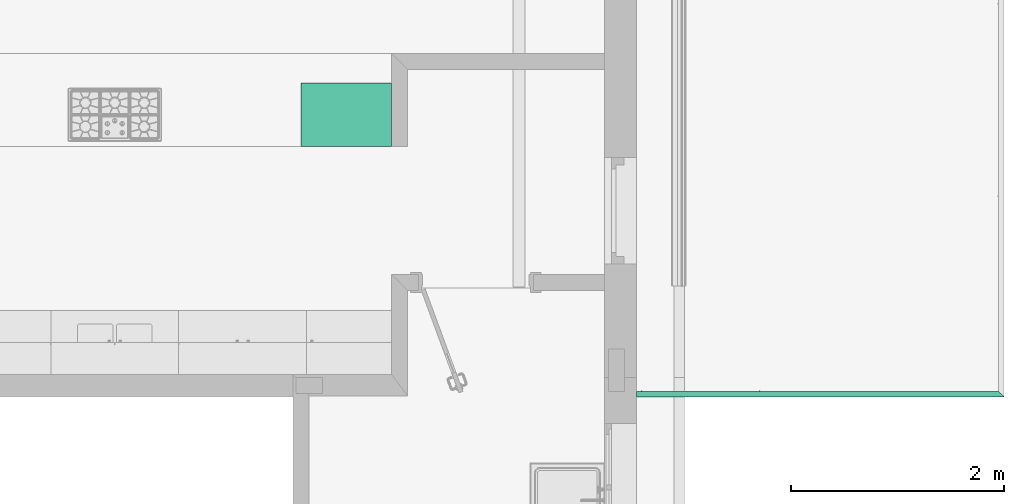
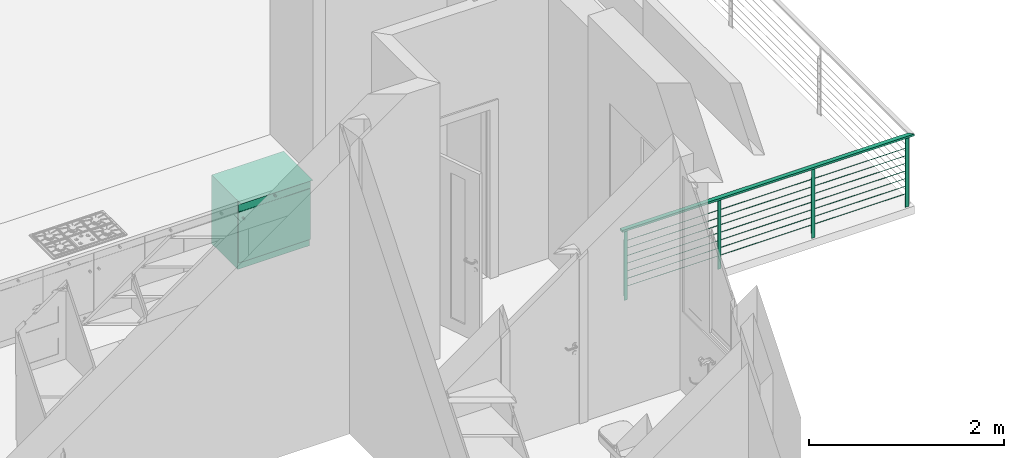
# One storey, part 24 of 26: 2 distribution elements.
"""IFC2X3 building model written with IfcOpenShell, lengths in millimetres."""

from ifc_helpers import new_model, entity, si_unit, converted_unit, money_unit, direction, frame, origin_with_axes, place, context, subcontext, project, spatial, faceted_brep, material, type_object, element, save


model = new_model("IFC2X3")

# Units and contexts
model_context = context("Model", 3, precision=1e-05, world=origin_with_axes(), true_north=direction((0.0, 1.0)))
body_context = subcontext(model_context, "Body", "Model", "MODEL_VIEW")
ifc_project = project(units=[si_unit("LENGTHUNIT", "METRE", prefix="MILLI"), si_unit("AREAUNIT", "SQUARE_METRE"), si_unit("VOLUMEUNIT", "CUBIC_METRE"), converted_unit("PLANEANGLEUNIT", "DEGREE", entity("IfcPlaneAngleMeasure", 0.0174532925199), si_unit("PLANEANGLEUNIT", "RADIAN"), dimensions=[0, 0, 0, 0, 0, 0, 0]), si_unit("SOLIDANGLEUNIT", "STERADIAN"), money_unit("USD"), converted_unit("TIMEUNIT", "Year", entity("IfcTimeMeasure", 31556926.0), si_unit("TIMEUNIT", "SECOND"), dimensions=[0, 0, 0, 0, 0, 0, 0]), si_unit("MASSUNIT", "GRAM"), si_unit("THERMODYNAMICTEMPERATUREUNIT", "DEGREE_CELSIUS"), si_unit("LUMINOUSINTENSITYUNIT", "LUMEN")], contexts=[model_context])

# Site, building, storey
site_placement = place(None, origin_with_axes())
site = spatial("IfcSite", under=ifc_project, at=site_placement, Name="Grove Residential", CompositionType="ELEMENT")
building_placement = place(site_placement, origin_with_axes())
building = spatial("IfcBuilding", under=site, at=building_placement, Name="Building", CompositionType="ELEMENT")
storey_placement = place(building_placement, origin_with_axes())
storey = spatial("IfcBuildingStorey", under=building, at=storey_placement, Name="Ground Floor", CompositionType="ELEMENT", Elevation=0.0)

# Distribution elements
ifc_material = material(Name="Background")
distribution_element_type_1 = type_object("IfcDistributionElementType", Name="Cabinet Base Single Door 21")
distribution_element_1_placement = place(storey_placement, frame((8000.0, 9200.0, 0.0), z_axis=(0.0, 0.0, 1.0), x_axis=(1.0, 0.0, 0.0)))
element("IfcDistributionElement", 1, at=distribution_element_1_placement, inside=storey, type_object=distribution_element_type_1, material=ifc_material, Name="FU - 001", context=body_context, shape_type="Brep", body=[
    faceted_brep([(-20.0, 70.0, 719.0), (-20.0, 70.0, 739.0), (-830.0, 70.0, 739.0), (-830.0, 70.0, 719.0), (-20.0, 580.0, 719.0), (-20.0, 580.0, 739.0), (-830.0, 580.0, 739.0), (-830.0, 580.0, 719.0)], [[[0, 1, 2, 3]], [[4, 5, 1, 0]], [[1, 5, 6, 2]], [[3, 2, 6, 7]], [[0, 3, 7, 4]], [[7, 6, 5, 4]]]),
    faceted_brep([(0.0, 70.0, 0.0), (0.0, 70.0, 90.0), (-850.0, 70.0, 90.0), (-850.0, 70.0, 0.0), (0.0, 600.0, 0.0), (0.0, 600.0, 90.0), (-850.0, 600.0, 90.0), (-850.0, 600.0, 0.0)], [[[0, 1, 2, 3]], [[4, 5, 1, 0]], [[1, 5, 6, 2]], [[3, 2, 6, 7]], [[0, 3, 7, 4]], [[7, 6, 5, 4]]]),
    faceted_brep([(0.0, 70.0, 839.0), (0.0, 70.0, 859.0), (-20.0, 70.0, 859.0), (-20.0, 70.0, 839.0), (0.0, 600.0, 839.0), (0.0, 600.0, 859.0), (-20.0, 600.0, 859.0), (-830.0, 600.0, 859.0), (-850.0, 600.0, 859.0), (-850.0, 70.0, 859.0), (-830.0, 70.0, 859.0), (-830.0, 70.0, 839.0), (-850.0, 70.0, 839.0), (-850.0, 600.0, 839.0), (-830.0, 600.0, 839.0), (-20.0, 600.0, 839.0)], [[[0, 1, 2, 3]], [[4, 5, 1, 0]], [[1, 5, 6, 7, 8, 9, 10, 2]], [[3, 2, 10, 11]], [[0, 3, 11, 12, 13, 14, 15, 4]], [[15, 6, 5, 4]], [[14, 7, 6, 15]], [[13, 8, 7, 14]], [[12, 9, 8, 13]], [[11, 10, 9, 12]]]),
    faceted_brep([(0.0, 70.0, 90.0), (0.0, 70.0, 110.0), (-20.0, 70.0, 110.0), (-20.0, 70.0, 90.0), (0.0, 600.0, 90.0), (0.0, 600.0, 110.0), (-20.0, 600.0, 110.0), (-830.0, 600.0, 110.0), (-850.0, 600.0, 110.0), (-850.0, 70.0, 110.0), (-830.0, 70.0, 110.0), (-830.0, 70.0, 90.0), (-850.0, 70.0, 90.0), (-850.0, 600.0, 90.0), (-830.0, 600.0, 90.0), (-20.0, 600.0, 90.0)], [[[0, 1, 2, 3]], [[4, 5, 1, 0]], [[1, 5, 6, 7, 8, 9, 10, 2]], [[3, 2, 10, 11]], [[0, 3, 11, 12, 13, 14, 15, 4]], [[15, 6, 5, 4]], [[14, 7, 6, 15]], [[13, 8, 7, 14]], [[12, 9, 8, 13]], [[11, 10, 9, 12]]]),
    faceted_brep([(0.0, 70.0, 110.0), (0.0, 70.0, 839.0), (-20.0, 70.0, 839.0), (-20.0, 70.0, 110.0), (0.0, 600.0, 110.0), (0.0, 600.0, 839.0), (-850.0, 600.0, 839.0), (-850.0, 70.0, 839.0), (-830.0, 70.0, 839.0), (-830.0, 580.0, 839.0), (-20.0, 580.0, 839.0), (-20.0, 580.0, 110.0), (-830.0, 580.0, 110.0), (-830.0, 70.0, 110.0), (-850.0, 70.0, 110.0), (-850.0, 600.0, 110.0)], [[[0, 1, 2, 3]], [[4, 5, 1, 0]], [[1, 5, 6, 7, 8, 9, 10, 2]], [[3, 2, 10, 11]], [[0, 3, 11, 12, 13, 14, 15, 4]], [[15, 6, 5, 4]], [[14, 7, 6, 15]], [[13, 8, 7, 14]], [[12, 9, 8, 13]], [[11, 10, 9, 12]]]),
    faceted_brep([(-830.0, 70.0, 389.5), (-830.0, 70.0, 409.5), (-830.0, 580.0, 409.5), (-830.0, 580.0, 389.5), (-20.0, 70.0, 389.5), (-20.0, 70.0, 409.5), (-20.0, 580.0, 409.5), (-20.0, 580.0, 389.5)], [[[0, 1, 2, 3]], [[4, 5, 1, 0]], [[1, 5, 6, 2]], [[3, 2, 6, 7]], [[0, 3, 7, 4]], [[7, 6, 5, 4]]]),
    faceted_brep([(0.0, 0.0, 859.0), (0.0, 0.0, 860.0), (-850.0, 0.0, 860.0), (-850.0, 0.0, 859.0), (0.0, 600.0, 859.0), (0.0, 600.0, 860.0), (-850.0, 600.0, 860.0), (-850.0, 600.0, 859.0)], [[[0, 1, 2, 3]], [[4, 5, 1, 0]], [[1, 5, 6, 2]], [[3, 2, 6, 7]], [[0, 3, 7, 4]], [[7, 6, 5, 4]]]),
    faceted_brep([(-1.5, 70.0, 730.5), (-1.5, 50.0, 730.5), (-848.5, 50.0, 730.5), (-848.5, 70.0, 730.5), (-1.5, 70.0, 857.5), (-1.5, 50.0, 857.5), (-848.5, 50.0, 857.5), (-848.5, 70.0, 857.5)], [[[0, 1, 2, 3]], [[4, 5, 1, 0]], [[1, 5, 6, 2]], [[3, 2, 6, 7]], [[0, 3, 7, 4]], [[7, 6, 5, 4]]]),
    faceted_brep([(-420.407798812, 50.0, 782.91344561), (-425.0, 50.0, 782.0), (-429.592201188, 50.0, 782.91344561), (-433.485281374, 50.0, 785.514718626), (-436.08655439, 50.0, 789.407798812), (-437.0, 50.0, 794.0), (-436.08655439, 50.0, 798.592201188), (-433.485281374, 50.0, 802.485281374), (-429.592201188, 50.0, 805.08655439), (-425.0, 50.0, 806.0), (-420.407798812, 50.0, 805.08655439), (-416.514718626, 50.0, 802.485281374), (-413.91344561, 50.0, 798.592201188), (-413.0, 50.0, 794.0), (-413.91344561, 50.0, 789.407798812), (-416.514718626, 50.0, 785.514718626), (-420.407798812, 25.0, 782.91344561), (-425.0, 25.0, 782.0), (-429.592201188, 25.0, 782.91344561), (-433.485281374, 25.0, 785.514718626), (-436.08655439, 25.0, 789.407798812), (-437.0, 25.0, 794.0), (-436.08655439, 25.0, 798.592201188), (-433.485281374, 25.0, 802.485281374), (-429.592201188, 25.0, 805.08655439), (-425.0, 25.0, 806.0), (-420.407798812, 25.0, 805.08655439), (-416.514718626, 25.0, 802.485281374), (-413.91344561, 25.0, 798.592201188), (-413.0, 25.0, 794.0), (-413.91344561, 25.0, 789.407798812), (-416.514718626, 25.0, 785.514718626)], [[[0, 1, 2, 3, 4, 5, 6, 7, 8, 9, 10, 11, 12, 13, 14, 15]], [[0, 16, 17, 1]], [[1, 17, 18, 2]], [[2, 18, 19, 3]], [[3, 19, 20, 4]], [[4, 20, 21, 5]], [[5, 21, 22, 6]], [[6, 22, 23, 7]], [[7, 23, 24, 8]], [[8, 24, 25, 9]], [[9, 25, 26, 10]], [[10, 26, 27, 11]], [[11, 27, 28, 12]], [[12, 28, 29, 13]], [[13, 29, 30, 14]], [[14, 30, 31, 15]], [[15, 31, 16, 0]], [[16, 31, 30, 29, 28, 27, 26, 25, 24, 23, 22, 21, 20, 19, 18, 17]]]),
    faceted_brep([(-1.5, 70.0, 91.5), (-1.5, 50.0, 91.5), (-848.5, 50.0, 91.5), (-848.5, 70.0, 91.5), (-1.5, 70.0, 727.5), (-1.5, 50.0, 727.5), (-848.5, 50.0, 727.5), (-848.5, 70.0, 727.5)], [[[0, 1, 2, 3]], [[4, 5, 1, 0]], [[1, 5, 6, 2]], [[3, 2, 6, 7]], [[0, 3, 7, 4]], [[7, 6, 5, 4]]]),
    faceted_brep([(-809.58655439, 50.0, 636.907798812), (-810.5, 50.0, 641.5), (-809.58655439, 50.0, 646.092201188), (-806.985281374, 50.0, 649.985281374), (-803.092201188, 50.0, 652.58655439), (-798.5, 50.0, 653.5), (-793.907798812, 50.0, 652.58655439), (-790.014718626, 50.0, 649.985281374), (-787.41344561, 50.0, 646.092201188), (-786.5, 50.0, 641.5), (-787.41344561, 50.0, 636.907798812), (-790.014718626, 50.0, 633.014718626), (-793.907798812, 50.0, 630.41344561), (-798.5, 50.0, 629.5), (-803.092201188, 50.0, 630.41344561), (-806.985281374, 50.0, 633.014718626), (-809.58655439, 25.0, 636.907798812), (-810.5, 25.0, 641.5), (-809.58655439, 25.0, 646.092201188), (-806.985281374, 25.0, 649.985281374), (-803.092201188, 25.0, 652.58655439), (-798.5, 25.0, 653.5), (-793.907798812, 25.0, 652.58655439), (-790.014718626, 25.0, 649.985281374), (-787.41344561, 25.0, 646.092201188), (-786.5, 25.0, 641.5), (-787.41344561, 25.0, 636.907798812), (-790.014718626, 25.0, 633.014718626), (-793.907798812, 25.0, 630.41344561), (-798.5, 25.0, 629.5), (-803.092201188, 25.0, 630.41344561), (-806.985281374, 25.0, 633.014718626)], [[[0, 1, 2, 3, 4, 5, 6, 7, 8, 9, 10, 11, 12, 13, 14, 15]], [[0, 16, 17, 1]], [[1, 17, 18, 2]], [[2, 18, 19, 3]], [[3, 19, 20, 4]], [[4, 20, 21, 5]], [[5, 21, 22, 6]], [[6, 22, 23, 7]], [[7, 23, 24, 8]], [[8, 24, 25, 9]], [[9, 25, 26, 10]], [[10, 26, 27, 11]], [[11, 27, 28, 12]], [[12, 28, 29, 13]], [[13, 29, 30, 14]], [[14, 30, 31, 15]], [[15, 31, 16, 0]], [[16, 31, 30, 29, 28, 27, 26, 25, 24, 23, 22, 21, 20, 19, 18, 17]]]),
])
distribution_element_type_2 = type_object("IfcDistributionElementType", Name="Rail Wired 02 20")
distribution_element_2_placement = place(storey_placement, frame((13725.0, 6875.0, -50.0), z_axis=(0.0, 0.0, 1.0), x_axis=(-1.0, 0.0, 0.0)))
element("IfcDistributionElement", 2, at=distribution_element_2_placement, inside=storey, type_object=distribution_element_type_2, material=ifc_material, Name="FU - 001", context=body_context, shape_type="Brep", body=[
    faceted_brep([(-25.0, 25.0, 875.0), (-25.0, 25.0, 875.0), (-25.0, 25.0, 900.0), (-25.0, 25.0, 900.0), (3425.0, 25.0, 875.0), (3425.0, -25.0, 875.0), (25.0, -25.0, 875.0), (25.0, -25.0, 900.0), (3425.0, -25.0, 900.0), (3425.0, 25.0, 900.0)], [[[0, 1, 2, 3]], [[0, 4, 5, 6, 1]], [[1, 6, 7, 2]], [[3, 2, 7, 8, 9]], [[4, 0, 3, 9]], [[5, 4, 9, 8]], [[6, 5, 8, 7]]]),
    faceted_brep([(30.0, -2.0, 0.0), (70.0, -2.0, 0.0), (70.0, -2.0, 871.0), (30.0, -2.0, 871.0), (30.0, 2.0, 0.0), (70.0, 2.0, 0.0), (70.0, 2.0, 871.0), (30.0, 2.0, 871.0)], [[[0, 1, 2, 3]], [[0, 4, 5, 1]], [[1, 5, 6, 2]], [[3, 2, 6, 7]], [[4, 0, 3, 7]], [[5, 4, 7, 6]]]),
    faceted_brep([(52.0, -38.0, 36.0), (52.0, -38.0, 731.0), (48.0, -38.0, 731.0), (48.0, -38.0, 36.0), (52.0, -2.0, 0.0), (52.0, -2.0, 767.0), (48.0, -2.0, 767.0), (48.0, -2.0, 0.0)], [[[0, 1, 2, 3]], [[0, 4, 5, 1]], [[1, 5, 6, 2]], [[3, 2, 6, 7]], [[4, 0, 3, 7]], [[5, 4, 7, 6]]]),
    faceted_brep([(1138.33333333, -2.0, 0.0), (1178.33333333, -2.0, 0.0), (1178.33333333, -2.0, 871.0), (1138.33333333, -2.0, 871.0), (1138.33333333, 2.0, 0.0), (1178.33333333, 2.0, 0.0), (1178.33333333, 2.0, 871.0), (1138.33333333, 2.0, 871.0)], [[[0, 1, 2, 3]], [[0, 4, 5, 1]], [[1, 5, 6, 2]], [[3, 2, 6, 7]], [[4, 0, 3, 7]], [[5, 4, 7, 6]]]),
    faceted_brep([(1160.33333333, -38.0, 36.0), (1160.33333333, -38.0, 731.0), (1156.33333333, -38.0, 731.0), (1156.33333333, -38.0, 36.0), (1160.33333333, -2.0, 0.0), (1160.33333333, -2.0, 767.0), (1156.33333333, -2.0, 767.0), (1156.33333333, -2.0, 0.0)], [[[0, 1, 2, 3]], [[0, 4, 5, 1]], [[1, 5, 6, 2]], [[3, 2, 6, 7]], [[4, 0, 3, 7]], [[5, 4, 7, 6]]]),
    faceted_brep([(2246.66666667, -2.0, 0.0), (2286.66666667, -2.0, 0.0), (2286.66666667, -2.0, 871.0), (2246.66666667, -2.0, 871.0), (2246.66666667, 2.0, 0.0), (2286.66666667, 2.0, 0.0), (2286.66666667, 2.0, 871.0), (2246.66666667, 2.0, 871.0)], [[[0, 1, 2, 3]], [[0, 4, 5, 1]], [[1, 5, 6, 2]], [[3, 2, 6, 7]], [[4, 0, 3, 7]], [[5, 4, 7, 6]]]),
    faceted_brep([(2268.66666667, -38.0, 36.0), (2268.66666667, -38.0, 731.0), (2264.66666667, -38.0, 731.0), (2264.66666667, -38.0, 36.0), (2268.66666667, -2.0, 0.0), (2268.66666667, -2.0, 767.0), (2264.66666667, -2.0, 767.0), (2264.66666667, -2.0, 0.0)], [[[0, 1, 2, 3]], [[0, 4, 5, 1]], [[1, 5, 6, 2]], [[3, 2, 6, 7]], [[4, 0, 3, 7]], [[5, 4, 7, 6]]]),
    faceted_brep([(3355.0, -2.0, 0.0), (3395.0, -2.0, 0.0), (3395.0, -2.0, 871.0), (3355.0, -2.0, 871.0), (3355.0, 2.0, 0.0), (3395.0, 2.0, 0.0), (3395.0, 2.0, 871.0), (3355.0, 2.0, 871.0)], [[[0, 1, 2, 3]], [[0, 4, 5, 1]], [[1, 5, 6, 2]], [[3, 2, 6, 7]], [[4, 0, 3, 7]], [[5, 4, 7, 6]]]),
    faceted_brep([(3377.0, -38.0, 36.0), (3377.0, -38.0, 731.0), (3373.0, -38.0, 731.0), (3373.0, -38.0, 36.0), (3377.0, -2.0, 0.0), (3377.0, -2.0, 767.0), (3373.0, -2.0, 767.0), (3373.0, -2.0, 0.0)], [[[0, 1, 2, 3]], [[0, 4, 5, 1]], [[1, 5, 6, 2]], [[3, 2, 6, 7]], [[4, 0, 3, 7]], [[5, 4, 7, 6]]]),
    faceted_brep([(20.0, -15.0, 871.0), (80.0, -15.0, 871.0), (80.0, -15.0, 875.0), (20.0, -15.0, 875.0), (20.0, 15.0, 871.0), (80.0, 15.0, 871.0), (80.0, 15.0, 875.0), (20.0, 15.0, 875.0)], [[[0, 1, 2, 3]], [[0, 4, 5, 1]], [[1, 5, 6, 2]], [[3, 2, 6, 7]], [[4, 0, 3, 7]], [[5, 4, 7, 6]]]),
    faceted_brep([(1128.33333333, -15.0, 871.0), (1188.33333333, -15.0, 871.0), (1188.33333333, -15.0, 875.0), (1128.33333333, -15.0, 875.0), (1128.33333333, 15.0, 871.0), (1188.33333333, 15.0, 871.0), (1188.33333333, 15.0, 875.0), (1128.33333333, 15.0, 875.0)], [[[0, 1, 2, 3]], [[0, 4, 5, 1]], [[1, 5, 6, 2]], [[3, 2, 6, 7]], [[4, 0, 3, 7]], [[5, 4, 7, 6]]]),
    faceted_brep([(2236.66666667, -15.0, 871.0), (2296.66666667, -15.0, 871.0), (2296.66666667, -15.0, 875.0), (2236.66666667, -15.0, 875.0), (2236.66666667, 15.0, 871.0), (2296.66666667, 15.0, 871.0), (2296.66666667, 15.0, 875.0), (2236.66666667, 15.0, 875.0)], [[[0, 1, 2, 3]], [[0, 4, 5, 1]], [[1, 5, 6, 2]], [[3, 2, 6, 7]], [[4, 0, 3, 7]], [[5, 4, 7, 6]]]),
    faceted_brep([(3345.0, -15.0, 871.0), (3405.0, -15.0, 871.0), (3405.0, -15.0, 875.0), (3345.0, -15.0, 875.0), (3345.0, 15.0, 871.0), (3405.0, 15.0, 871.0), (3405.0, 15.0, 875.0), (3345.0, 15.0, 875.0)], [[[0, 1, 2, 3]], [[0, 4, 5, 1]], [[1, 5, 6, 2]], [[3, 2, 6, 7]], [[4, 0, 3, 7]], [[5, 4, 7, 6]]]),
    faceted_brep([(3355.0, -22.0, 155.0), (3355.0, -18.0, 155.0), (3375.0, -18.0, 155.0), (3375.0, -17.5, 155.0), (50.0, -17.5, 155.0), (50.0, -18.0, 155.0), (70.0, -18.0, 155.0), (70.0, -22.0, 155.0), (52.0, -22.0, 155.0), (52.0, -22.5, 155.0), (1156.33333333, -22.5, 155.0), (1156.33333333, -22.0, 155.0), (1138.33333333, -22.0, 155.0), (1138.33333333, -18.0, 155.0), (1178.33333333, -18.0, 155.0), (1178.33333333, -22.0, 155.0), (1160.33333333, -22.0, 155.0), (1160.33333333, -22.5, 155.0), (2264.66666667, -22.5, 155.0), (2264.66666667, -22.0, 155.0), (2246.66666667, -22.0, 155.0), (2246.66666667, -18.0, 155.0), (2286.66666667, -18.0, 155.0), (2286.66666667, -22.0, 155.0), (2268.66666667, -22.0, 155.0), (2268.66666667, -22.5, 155.0), (3373.0, -22.5, 155.0), (3373.0, -22.0, 155.0), (3355.0, -22.0, 150.0), (3355.0, -18.0, 150.0), (3375.0, -18.0, 150.0), (3375.0, -17.5, 150.0), (50.0, -17.5, 150.0), (50.0, -18.0, 150.0), (70.0, -18.0, 150.0), (70.0, -22.0, 150.0), (52.0, -22.0, 150.0), (52.0, -22.5, 150.0), (1156.33333333, -22.5, 150.0), (1156.33333333, -22.0, 150.0), (1138.33333333, -22.0, 150.0), (1138.33333333, -18.0, 150.0), (1178.33333333, -18.0, 150.0), (1178.33333333, -22.0, 150.0), (1160.33333333, -22.0, 150.0), (1160.33333333, -22.5, 150.0), (2264.66666667, -22.5, 150.0), (2264.66666667, -22.0, 150.0), (2246.66666667, -22.0, 150.0), (2246.66666667, -18.0, 150.0), (2286.66666667, -18.0, 150.0), (2286.66666667, -22.0, 150.0), (2268.66666667, -22.0, 150.0), (2268.66666667, -22.5, 150.0), (3373.0, -22.5, 150.0), (3373.0, -22.0, 150.0)], [[[0, 1, 2, 3, 4, 5, 6, 7, 8, 9, 10, 11, 12, 13, 14, 15, 16, 17, 18, 19, 20, 21, 22, 23, 24, 25, 26, 27]], [[1, 0, 28, 29]], [[30, 2, 1, 29]], [[2, 30, 31, 3]], [[3, 31, 32, 4]], [[33, 5, 4, 32]], [[6, 5, 33, 34]], [[7, 6, 34, 35]], [[36, 8, 7, 35]], [[9, 8, 36, 37]], [[38, 10, 9, 37]], [[39, 11, 10, 38]], [[11, 39, 40, 12]], [[13, 12, 40, 41]], [[14, 13, 41, 42]], [[15, 14, 42, 43]], [[44, 16, 15, 43]], [[17, 16, 44, 45]], [[46, 18, 17, 45]], [[47, 19, 18, 46]], [[19, 47, 48, 20]], [[21, 20, 48, 49]], [[22, 21, 49, 50]], [[23, 22, 50, 51]], [[52, 24, 23, 51]], [[25, 24, 52, 53]], [[25, 53, 54, 26]], [[55, 27, 26, 54]], [[0, 27, 55, 28]], [[28, 55, 54, 53, 52, 51, 50, 49, 48, 47, 46, 45, 44, 43, 42, 41, 40, 39, 38, 37, 36, 35, 34, 33, 32, 31, 30, 29]]]),
    faceted_brep([(3355.0, -22.0, 250.0), (3355.0, -18.0, 250.0), (3375.0, -18.0, 250.0), (3375.0, -17.5, 250.0), (50.0, -17.5, 250.0), (50.0, -18.0, 250.0), (70.0, -18.0, 250.0), (70.0, -22.0, 250.0), (52.0, -22.0, 250.0), (52.0, -22.5, 250.0), (1156.33333333, -22.5, 250.0), (1156.33333333, -22.0, 250.0), (1138.33333333, -22.0, 250.0), (1138.33333333, -18.0, 250.0), (1178.33333333, -18.0, 250.0), (1178.33333333, -22.0, 250.0), (1160.33333333, -22.0, 250.0), (1160.33333333, -22.5, 250.0), (2264.66666667, -22.5, 250.0), (2264.66666667, -22.0, 250.0), (2246.66666667, -22.0, 250.0), (2246.66666667, -18.0, 250.0), (2286.66666667, -18.0, 250.0), (2286.66666667, -22.0, 250.0), (2268.66666667, -22.0, 250.0), (2268.66666667, -22.5, 250.0), (3373.0, -22.5, 250.0), (3373.0, -22.0, 250.0), (3355.0, -22.0, 245.0), (3355.0, -18.0, 245.0), (3375.0, -18.0, 245.0), (3375.0, -17.5, 245.0), (50.0, -17.5, 245.0), (50.0, -18.0, 245.0), (70.0, -18.0, 245.0), (70.0, -22.0, 245.0), (52.0, -22.0, 245.0), (52.0, -22.5, 245.0), (1156.33333333, -22.5, 245.0), (1156.33333333, -22.0, 245.0), (1138.33333333, -22.0, 245.0), (1138.33333333, -18.0, 245.0), (1178.33333333, -18.0, 245.0), (1178.33333333, -22.0, 245.0), (1160.33333333, -22.0, 245.0), (1160.33333333, -22.5, 245.0), (2264.66666667, -22.5, 245.0), (2264.66666667, -22.0, 245.0), (2246.66666667, -22.0, 245.0), (2246.66666667, -18.0, 245.0), (2286.66666667, -18.0, 245.0), (2286.66666667, -22.0, 245.0), (2268.66666667, -22.0, 245.0), (2268.66666667, -22.5, 245.0), (3373.0, -22.5, 245.0), (3373.0, -22.0, 245.0)], [[[0, 1, 2, 3, 4, 5, 6, 7, 8, 9, 10, 11, 12, 13, 14, 15, 16, 17, 18, 19, 20, 21, 22, 23, 24, 25, 26, 27]], [[1, 0, 28, 29]], [[30, 2, 1, 29]], [[2, 30, 31, 3]], [[3, 31, 32, 4]], [[33, 5, 4, 32]], [[6, 5, 33, 34]], [[7, 6, 34, 35]], [[36, 8, 7, 35]], [[9, 8, 36, 37]], [[38, 10, 9, 37]], [[39, 11, 10, 38]], [[11, 39, 40, 12]], [[13, 12, 40, 41]], [[14, 13, 41, 42]], [[15, 14, 42, 43]], [[44, 16, 15, 43]], [[17, 16, 44, 45]], [[46, 18, 17, 45]], [[47, 19, 18, 46]], [[19, 47, 48, 20]], [[21, 20, 48, 49]], [[22, 21, 49, 50]], [[23, 22, 50, 51]], [[52, 24, 23, 51]], [[25, 24, 52, 53]], [[25, 53, 54, 26]], [[55, 27, 26, 54]], [[0, 27, 55, 28]], [[28, 55, 54, 53, 52, 51, 50, 49, 48, 47, 46, 45, 44, 43, 42, 41, 40, 39, 38, 37, 36, 35, 34, 33, 32, 31, 30, 29]]]),
    faceted_brep([(3355.0, -22.0, 345.0), (3355.0, -18.0, 345.0), (3375.0, -18.0, 345.0), (3375.0, -17.5, 345.0), (50.0, -17.5, 345.0), (50.0, -18.0, 345.0), (70.0, -18.0, 345.0), (70.0, -22.0, 345.0), (52.0, -22.0, 345.0), (52.0, -22.5, 345.0), (1156.33333333, -22.5, 345.0), (1156.33333333, -22.0, 345.0), (1138.33333333, -22.0, 345.0), (1138.33333333, -18.0, 345.0), (1178.33333333, -18.0, 345.0), (1178.33333333, -22.0, 345.0), (1160.33333333, -22.0, 345.0), (1160.33333333, -22.5, 345.0), (2264.66666667, -22.5, 345.0), (2264.66666667, -22.0, 345.0), (2246.66666667, -22.0, 345.0), (2246.66666667, -18.0, 345.0), (2286.66666667, -18.0, 345.0), (2286.66666667, -22.0, 345.0), (2268.66666667, -22.0, 345.0), (2268.66666667, -22.5, 345.0), (3373.0, -22.5, 345.0), (3373.0, -22.0, 345.0), (3355.0, -22.0, 340.0), (3355.0, -18.0, 340.0), (3375.0, -18.0, 340.0), (3375.0, -17.5, 340.0), (50.0, -17.5, 340.0), (50.0, -18.0, 340.0), (70.0, -18.0, 340.0), (70.0, -22.0, 340.0), (52.0, -22.0, 340.0), (52.0, -22.5, 340.0), (1156.33333333, -22.5, 340.0), (1156.33333333, -22.0, 340.0), (1138.33333333, -22.0, 340.0), (1138.33333333, -18.0, 340.0), (1178.33333333, -18.0, 340.0), (1178.33333333, -22.0, 340.0), (1160.33333333, -22.0, 340.0), (1160.33333333, -22.5, 340.0), (2264.66666667, -22.5, 340.0), (2264.66666667, -22.0, 340.0), (2246.66666667, -22.0, 340.0), (2246.66666667, -18.0, 340.0), (2286.66666667, -18.0, 340.0), (2286.66666667, -22.0, 340.0), (2268.66666667, -22.0, 340.0), (2268.66666667, -22.5, 340.0), (3373.0, -22.5, 340.0), (3373.0, -22.0, 340.0)], [[[0, 1, 2, 3, 4, 5, 6, 7, 8, 9, 10, 11, 12, 13, 14, 15, 16, 17, 18, 19, 20, 21, 22, 23, 24, 25, 26, 27]], [[1, 0, 28, 29]], [[30, 2, 1, 29]], [[2, 30, 31, 3]], [[3, 31, 32, 4]], [[33, 5, 4, 32]], [[6, 5, 33, 34]], [[7, 6, 34, 35]], [[36, 8, 7, 35]], [[9, 8, 36, 37]], [[38, 10, 9, 37]], [[39, 11, 10, 38]], [[11, 39, 40, 12]], [[13, 12, 40, 41]], [[14, 13, 41, 42]], [[15, 14, 42, 43]], [[44, 16, 15, 43]], [[17, 16, 44, 45]], [[46, 18, 17, 45]], [[47, 19, 18, 46]], [[19, 47, 48, 20]], [[21, 20, 48, 49]], [[22, 21, 49, 50]], [[23, 22, 50, 51]], [[52, 24, 23, 51]], [[25, 24, 52, 53]], [[25, 53, 54, 26]], [[55, 27, 26, 54]], [[0, 27, 55, 28]], [[28, 55, 54, 53, 52, 51, 50, 49, 48, 47, 46, 45, 44, 43, 42, 41, 40, 39, 38, 37, 36, 35, 34, 33, 32, 31, 30, 29]]]),
    faceted_brep([(3355.0, -22.0, 440.0), (3355.0, -18.0, 440.0), (3375.0, -18.0, 440.0), (3375.0, -17.5, 440.0), (50.0, -17.5, 440.0), (50.0, -18.0, 440.0), (70.0, -18.0, 440.0), (70.0, -22.0, 440.0), (52.0, -22.0, 440.0), (52.0, -22.5, 440.0), (1156.33333333, -22.5, 440.0), (1156.33333333, -22.0, 440.0), (1138.33333333, -22.0, 440.0), (1138.33333333, -18.0, 440.0), (1178.33333333, -18.0, 440.0), (1178.33333333, -22.0, 440.0), (1160.33333333, -22.0, 440.0), (1160.33333333, -22.5, 440.0), (2264.66666667, -22.5, 440.0), (2264.66666667, -22.0, 440.0), (2246.66666667, -22.0, 440.0), (2246.66666667, -18.0, 440.0), (2286.66666667, -18.0, 440.0), (2286.66666667, -22.0, 440.0), (2268.66666667, -22.0, 440.0), (2268.66666667, -22.5, 440.0), (3373.0, -22.5, 440.0), (3373.0, -22.0, 440.0), (3355.0, -22.0, 435.0), (3355.0, -18.0, 435.0), (3375.0, -18.0, 435.0), (3375.0, -17.5, 435.0), (50.0, -17.5, 435.0), (50.0, -18.0, 435.0), (70.0, -18.0, 435.0), (70.0, -22.0, 435.0), (52.0, -22.0, 435.0), (52.0, -22.5, 435.0), (1156.33333333, -22.5, 435.0), (1156.33333333, -22.0, 435.0), (1138.33333333, -22.0, 435.0), (1138.33333333, -18.0, 435.0), (1178.33333333, -18.0, 435.0), (1178.33333333, -22.0, 435.0), (1160.33333333, -22.0, 435.0), (1160.33333333, -22.5, 435.0), (2264.66666667, -22.5, 435.0), (2264.66666667, -22.0, 435.0), (2246.66666667, -22.0, 435.0), (2246.66666667, -18.0, 435.0), (2286.66666667, -18.0, 435.0), (2286.66666667, -22.0, 435.0), (2268.66666667, -22.0, 435.0), (2268.66666667, -22.5, 435.0), (3373.0, -22.5, 435.0), (3373.0, -22.0, 435.0)], [[[0, 1, 2, 3, 4, 5, 6, 7, 8, 9, 10, 11, 12, 13, 14, 15, 16, 17, 18, 19, 20, 21, 22, 23, 24, 25, 26, 27]], [[1, 0, 28, 29]], [[30, 2, 1, 29]], [[2, 30, 31, 3]], [[3, 31, 32, 4]], [[33, 5, 4, 32]], [[6, 5, 33, 34]], [[7, 6, 34, 35]], [[36, 8, 7, 35]], [[9, 8, 36, 37]], [[38, 10, 9, 37]], [[39, 11, 10, 38]], [[11, 39, 40, 12]], [[13, 12, 40, 41]], [[14, 13, 41, 42]], [[15, 14, 42, 43]], [[44, 16, 15, 43]], [[17, 16, 44, 45]], [[46, 18, 17, 45]], [[47, 19, 18, 46]], [[19, 47, 48, 20]], [[21, 20, 48, 49]], [[22, 21, 49, 50]], [[23, 22, 50, 51]], [[52, 24, 23, 51]], [[25, 24, 52, 53]], [[25, 53, 54, 26]], [[55, 27, 26, 54]], [[0, 27, 55, 28]], [[28, 55, 54, 53, 52, 51, 50, 49, 48, 47, 46, 45, 44, 43, 42, 41, 40, 39, 38, 37, 36, 35, 34, 33, 32, 31, 30, 29]]]),
    faceted_brep([(3355.0, -22.0, 535.0), (3355.0, -18.0, 535.0), (3375.0, -18.0, 535.0), (3375.0, -17.5, 535.0), (50.0, -17.5, 535.0), (50.0, -18.0, 535.0), (70.0, -18.0, 535.0), (70.0, -22.0, 535.0), (52.0, -22.0, 535.0), (52.0, -22.5, 535.0), (1156.33333333, -22.5, 535.0), (1156.33333333, -22.0, 535.0), (1138.33333333, -22.0, 535.0), (1138.33333333, -18.0, 535.0), (1178.33333333, -18.0, 535.0), (1178.33333333, -22.0, 535.0), (1160.33333333, -22.0, 535.0), (1160.33333333, -22.5, 535.0), (2264.66666667, -22.5, 535.0), (2264.66666667, -22.0, 535.0), (2246.66666667, -22.0, 535.0), (2246.66666667, -18.0, 535.0), (2286.66666667, -18.0, 535.0), (2286.66666667, -22.0, 535.0), (2268.66666667, -22.0, 535.0), (2268.66666667, -22.5, 535.0), (3373.0, -22.5, 535.0), (3373.0, -22.0, 535.0), (3355.0, -22.0, 530.0), (3355.0, -18.0, 530.0), (3375.0, -18.0, 530.0), (3375.0, -17.5, 530.0), (50.0, -17.5, 530.0), (50.0, -18.0, 530.0), (70.0, -18.0, 530.0), (70.0, -22.0, 530.0), (52.0, -22.0, 530.0), (52.0, -22.5, 530.0), (1156.33333333, -22.5, 530.0), (1156.33333333, -22.0, 530.0), (1138.33333333, -22.0, 530.0), (1138.33333333, -18.0, 530.0), (1178.33333333, -18.0, 530.0), (1178.33333333, -22.0, 530.0), (1160.33333333, -22.0, 530.0), (1160.33333333, -22.5, 530.0), (2264.66666667, -22.5, 530.0), (2264.66666667, -22.0, 530.0), (2246.66666667, -22.0, 530.0), (2246.66666667, -18.0, 530.0), (2286.66666667, -18.0, 530.0), (2286.66666667, -22.0, 530.0), (2268.66666667, -22.0, 530.0), (2268.66666667, -22.5, 530.0), (3373.0, -22.5, 530.0), (3373.0, -22.0, 530.0)], [[[0, 1, 2, 3, 4, 5, 6, 7, 8, 9, 10, 11, 12, 13, 14, 15, 16, 17, 18, 19, 20, 21, 22, 23, 24, 25, 26, 27]], [[1, 0, 28, 29]], [[30, 2, 1, 29]], [[2, 30, 31, 3]], [[3, 31, 32, 4]], [[33, 5, 4, 32]], [[6, 5, 33, 34]], [[7, 6, 34, 35]], [[36, 8, 7, 35]], [[9, 8, 36, 37]], [[38, 10, 9, 37]], [[39, 11, 10, 38]], [[11, 39, 40, 12]], [[13, 12, 40, 41]], [[14, 13, 41, 42]], [[15, 14, 42, 43]], [[44, 16, 15, 43]], [[17, 16, 44, 45]], [[46, 18, 17, 45]], [[47, 19, 18, 46]], [[19, 47, 48, 20]], [[21, 20, 48, 49]], [[22, 21, 49, 50]], [[23, 22, 50, 51]], [[52, 24, 23, 51]], [[25, 24, 52, 53]], [[25, 53, 54, 26]], [[55, 27, 26, 54]], [[0, 27, 55, 28]], [[28, 55, 54, 53, 52, 51, 50, 49, 48, 47, 46, 45, 44, 43, 42, 41, 40, 39, 38, 37, 36, 35, 34, 33, 32, 31, 30, 29]]]),
    faceted_brep([(3355.0, -22.0, 630.0), (3355.0, -18.0, 630.0), (3375.0, -18.0, 630.0), (3375.0, -17.5, 630.0), (50.0, -17.5, 630.0), (50.0, -18.0, 630.0), (70.0, -18.0, 630.0), (70.0, -22.0, 630.0), (52.0, -22.0, 630.0), (52.0, -22.5, 630.0), (1156.33333333, -22.5, 630.0), (1156.33333333, -22.0, 630.0), (1138.33333333, -22.0, 630.0), (1138.33333333, -18.0, 630.0), (1178.33333333, -18.0, 630.0), (1178.33333333, -22.0, 630.0), (1160.33333333, -22.0, 630.0), (1160.33333333, -22.5, 630.0), (2264.66666667, -22.5, 630.0), (2264.66666667, -22.0, 630.0), (2246.66666667, -22.0, 630.0), (2246.66666667, -18.0, 630.0), (2286.66666667, -18.0, 630.0), (2286.66666667, -22.0, 630.0), (2268.66666667, -22.0, 630.0), (2268.66666667, -22.5, 630.0), (3373.0, -22.5, 630.0), (3373.0, -22.0, 630.0), (3355.0, -22.0, 625.0), (3355.0, -18.0, 625.0), (3375.0, -18.0, 625.0), (3375.0, -17.5, 625.0), (50.0, -17.5, 625.0), (50.0, -18.0, 625.0), (70.0, -18.0, 625.0), (70.0, -22.0, 625.0), (52.0, -22.0, 625.0), (52.0, -22.5, 625.0), (1156.33333333, -22.5, 625.0), (1156.33333333, -22.0, 625.0), (1138.33333333, -22.0, 625.0), (1138.33333333, -18.0, 625.0), (1178.33333333, -18.0, 625.0), (1178.33333333, -22.0, 625.0), (1160.33333333, -22.0, 625.0), (1160.33333333, -22.5, 625.0), (2264.66666667, -22.5, 625.0), (2264.66666667, -22.0, 625.0), (2246.66666667, -22.0, 625.0), (2246.66666667, -18.0, 625.0), (2286.66666667, -18.0, 625.0), (2286.66666667, -22.0, 625.0), (2268.66666667, -22.0, 625.0), (2268.66666667, -22.5, 625.0), (3373.0, -22.5, 625.0), (3373.0, -22.0, 625.0)], [[[0, 1, 2, 3, 4, 5, 6, 7, 8, 9, 10, 11, 12, 13, 14, 15, 16, 17, 18, 19, 20, 21, 22, 23, 24, 25, 26, 27]], [[1, 0, 28, 29]], [[30, 2, 1, 29]], [[2, 30, 31, 3]], [[3, 31, 32, 4]], [[33, 5, 4, 32]], [[6, 5, 33, 34]], [[7, 6, 34, 35]], [[36, 8, 7, 35]], [[9, 8, 36, 37]], [[38, 10, 9, 37]], [[39, 11, 10, 38]], [[11, 39, 40, 12]], [[13, 12, 40, 41]], [[14, 13, 41, 42]], [[15, 14, 42, 43]], [[44, 16, 15, 43]], [[17, 16, 44, 45]], [[46, 18, 17, 45]], [[47, 19, 18, 46]], [[19, 47, 48, 20]], [[21, 20, 48, 49]], [[22, 21, 49, 50]], [[23, 22, 50, 51]], [[52, 24, 23, 51]], [[25, 24, 52, 53]], [[25, 53, 54, 26]], [[55, 27, 26, 54]], [[0, 27, 55, 28]], [[28, 55, 54, 53, 52, 51, 50, 49, 48, 47, 46, 45, 44, 43, 42, 41, 40, 39, 38, 37, 36, 35, 34, 33, 32, 31, 30, 29]]]),
    faceted_brep([(3355.0, -22.0, 725.0), (3355.0, -18.0, 725.0), (3375.0, -18.0, 725.0), (3375.0, -17.5, 725.0), (50.0, -17.5, 725.0), (50.0, -18.0, 725.0), (70.0, -18.0, 725.0), (70.0, -22.0, 725.0), (52.0, -22.0, 725.0), (52.0, -22.5, 725.0), (1156.33333333, -22.5, 725.0), (1156.33333333, -22.0, 725.0), (1138.33333333, -22.0, 725.0), (1138.33333333, -18.0, 725.0), (1178.33333333, -18.0, 725.0), (1178.33333333, -22.0, 725.0), (1160.33333333, -22.0, 725.0), (1160.33333333, -22.5, 725.0), (2264.66666667, -22.5, 725.0), (2264.66666667, -22.0, 725.0), (2246.66666667, -22.0, 725.0), (2246.66666667, -18.0, 725.0), (2286.66666667, -18.0, 725.0), (2286.66666667, -22.0, 725.0), (2268.66666667, -22.0, 725.0), (2268.66666667, -22.5, 725.0), (3373.0, -22.5, 725.0), (3373.0, -22.0, 725.0), (3355.0, -22.0, 720.0), (3355.0, -18.0, 720.0), (3375.0, -18.0, 720.0), (3375.0, -17.5, 720.0), (50.0, -17.5, 720.0), (50.0, -18.0, 720.0), (70.0, -18.0, 720.0), (70.0, -22.0, 720.0), (52.0, -22.0, 720.0), (52.0, -22.5, 720.0), (1156.33333333, -22.5, 720.0), (1156.33333333, -22.0, 720.0), (1138.33333333, -22.0, 720.0), (1138.33333333, -18.0, 720.0), (1178.33333333, -18.0, 720.0), (1178.33333333, -22.0, 720.0), (1160.33333333, -22.0, 720.0), (1160.33333333, -22.5, 720.0), (2264.66666667, -22.5, 720.0), (2264.66666667, -22.0, 720.0), (2246.66666667, -22.0, 720.0), (2246.66666667, -18.0, 720.0), (2286.66666667, -18.0, 720.0), (2286.66666667, -22.0, 720.0), (2268.66666667, -22.0, 720.0), (2268.66666667, -22.5, 720.0), (3373.0, -22.5, 720.0), (3373.0, -22.0, 720.0)], [[[0, 1, 2, 3, 4, 5, 6, 7, 8, 9, 10, 11, 12, 13, 14, 15, 16, 17, 18, 19, 20, 21, 22, 23, 24, 25, 26, 27]], [[1, 0, 28, 29]], [[30, 2, 1, 29]], [[2, 30, 31, 3]], [[3, 31, 32, 4]], [[33, 5, 4, 32]], [[6, 5, 33, 34]], [[7, 6, 34, 35]], [[36, 8, 7, 35]], [[9, 8, 36, 37]], [[38, 10, 9, 37]], [[39, 11, 10, 38]], [[11, 39, 40, 12]], [[13, 12, 40, 41]], [[14, 13, 41, 42]], [[15, 14, 42, 43]], [[44, 16, 15, 43]], [[17, 16, 44, 45]], [[46, 18, 17, 45]], [[47, 19, 18, 46]], [[19, 47, 48, 20]], [[21, 20, 48, 49]], [[22, 21, 49, 50]], [[23, 22, 50, 51]], [[52, 24, 23, 51]], [[25, 24, 52, 53]], [[25, 53, 54, 26]], [[55, 27, 26, 54]], [[0, 27, 55, 28]], [[28, 55, 54, 53, 52, 51, 50, 49, 48, 47, 46, 45, 44, 43, 42, 41, 40, 39, 38, 37, 36, 35, 34, 33, 32, 31, 30, 29]]]),
])

save(model, "model.ifc")
